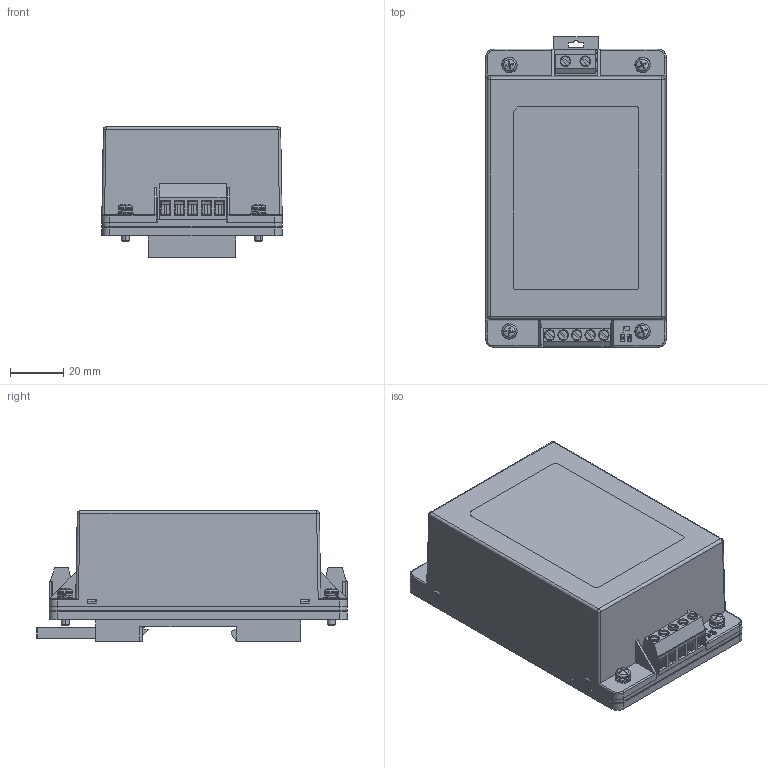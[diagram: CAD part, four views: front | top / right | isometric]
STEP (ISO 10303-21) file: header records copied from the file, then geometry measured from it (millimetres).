
FILE_DESCRIPTION (( 'STEP AP214' ), '1' );
FILE_NAME ('tmm60-din.STEP', '2015-09-02T07:55:43', ( '' ), ( '' ), 'SwSTEP 2.0', 'SolidWorks 2013', '' );
FILE_SCHEMA (( 'AUTOMOTIVE_DESIGN' ));
Length unit declared in the file: millimetre
Products named in the file (19): DIN_2; DIN_1; tmm60-din; TMM60 Chassis Mounting; Connect(2 PIN); Connect(5 PIN); TMM60 Chassis CASE; _X2_5BE69AD4_X0_1B; _X2_5BE69AD4_X0_1A; TMM60 Chassis BASE; M3-12mm; ISO 7045  H  (_X2_6B63898F87BA7D0B_X0_) M3 x 10 - 4.8 - HA; DIN rail_HS; M3-8mm; ISO 7045  H  (_X2_6B63898F87BA7D0B_X0_) M3 x 10 - 4.8 - H; SPRING WASHER; FLAT WASHER; tmm-60-HS; DIN rail
Assembly tree (26 placements, depth 4):
  tmm60-din
    DIN rail_HS
      DIN rail
        DIN_1
        DIN_2
      tmm-60-HS
      M3-8mm  x4
        FLAT WASHER
        SPRING WASHER
        ISO 7045  H  (_X2_6B63898F87BA7D0B_X0_) M3 x 10 - 4.8 - H
    M3-12mm  x4
      ISO 7045  H  (_X2_6B63898F87BA7D0B_X0_) M3 x 10 - 4.8 - HA
      FLAT WASHER
      SPRING WASHER
    TMM60 Chassis Mounting
      TMM60 Chassis BASE
      TMM60 Chassis CASE
        _X2_5BE69AD4_X0_1A
        _X2_5BE69AD4_X0_1B
      Connect(5 PIN)
      Connect(2 PIN)
Bounding box: 67.8 x 116.71 x 49 mm (x, y, z)
Volume: 243372 mm3; surface area: 78097.1 mm2
Topology: 32 solids, 32 shells, 1296 faces, 3334 edges, 2158 vertices
Faces by surface type: plane 651, cylinder 328, bspline 177, cone 140
Entity records: 38440 total; most frequent: CARTESIAN_POINT 8404, ORIENTED_EDGE 4784, DIRECTION 4405, EDGE_CURVE 2392, LINE 1639, VECTOR 1639, VERTEX_POINT 1570, AXIS2_PLACEMENT_3D 1383
